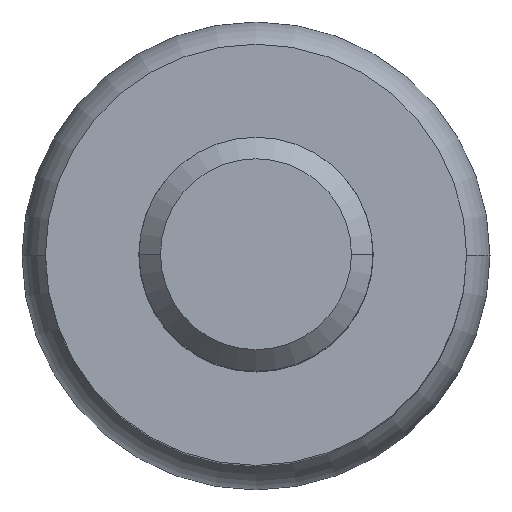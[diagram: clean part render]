
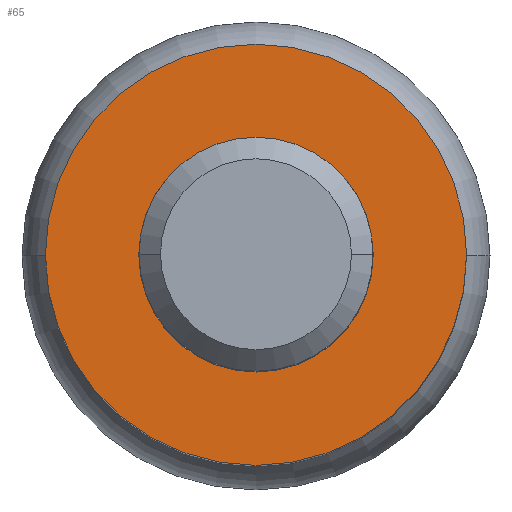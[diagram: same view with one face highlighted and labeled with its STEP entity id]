
A CAD part, top view. The second image highlights one B-rep face of the part: STEP entity #65.
In plain terms, the highlighted planar face has unit normal (0, 0, 1).
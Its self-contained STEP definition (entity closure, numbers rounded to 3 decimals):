
#65=ADVANCED_FACE('',(#130,#131),#132,.T.);
#130=FACE_OUTER_BOUND('',#194,.T.);
#131=FACE_BOUND('',#195,.T.);
#132=PLANE('',#196);
#194=EDGE_LOOP('',(#307,#308));
#195=EDGE_LOOP('',(#309,#310));
#196=AXIS2_PLACEMENT_3D('',#311,#312,#313);
#307=ORIENTED_EDGE('',*,*,#401,.T.);
#308=ORIENTED_EDGE('',*,*,#374,.T.);
#309=ORIENTED_EDGE('',*,*,#371,.T.);
#310=ORIENTED_EDGE('',*,*,#402,.T.);
#311=CARTESIAN_POINT('',(0.0,0.0,-14.5));
#312=DIRECTION('',(0.0,0.0,1.0));
#313=DIRECTION('',(1.0,0.0,0.0));
#371=EDGE_CURVE('',#426,#430,#432,.T.);
#374=EDGE_CURVE('',#436,#434,#437,.T.);
#401=EDGE_CURVE('',#434,#436,#474,.T.);
#402=EDGE_CURVE('',#430,#426,#475,.T.);
#426=VERTEX_POINT('',#499);
#430=VERTEX_POINT('',#504);
#432=CIRCLE('',#507,5.01);
#434=VERTEX_POINT('',#509);
#436=VERTEX_POINT('',#512);
#437=CIRCLE('',#513,9.0);
#474=CIRCLE('',#557,9.0);
#475=CIRCLE('',#558,5.01);
#499=CARTESIAN_POINT('',(-5.01,0.0,-14.5));
#504=CARTESIAN_POINT('',(5.01,0.,-14.5));
#507=AXIS2_PLACEMENT_3D('',#591,#592,#593);
#509=CARTESIAN_POINT('',(-9.0,0.0,-14.5));
#512=CARTESIAN_POINT('',(9.0,0.,-14.5));
#513=AXIS2_PLACEMENT_3D('',#595,#596,#597);
#557=AXIS2_PLACEMENT_3D('',#638,#639,#640);
#558=AXIS2_PLACEMENT_3D('',#641,#642,#643);
#591=CARTESIAN_POINT('',(0.0,0.0,-14.5));
#592=DIRECTION('',(0.0,0.0,-1.0));
#593=DIRECTION('',(-1.0,0.0,0.0));
#595=CARTESIAN_POINT('',(0.0,0.0,-14.5));
#596=DIRECTION('',(0.0,0.0,1.0));
#597=DIRECTION('',(-1.0,0.0,0.0));
#638=CARTESIAN_POINT('',(0.0,0.0,-14.5));
#639=DIRECTION('',(0.0,0.0,1.0));
#640=DIRECTION('',(-1.0,0.0,0.0));
#641=CARTESIAN_POINT('',(0.0,0.0,-14.5));
#642=DIRECTION('',(0.0,0.0,-1.0));
#643=DIRECTION('',(-1.0,0.0,0.0));
